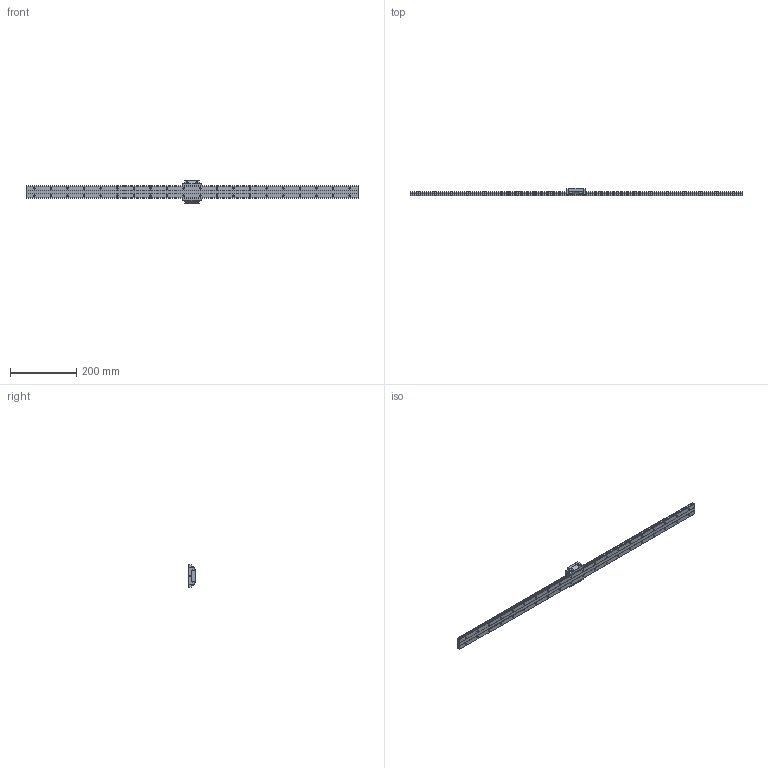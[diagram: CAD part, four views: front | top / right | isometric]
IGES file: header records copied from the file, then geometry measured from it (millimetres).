
Start section: Data from XPlus IGES,  Spatial Corp. Copyright (c) 1999-2004
Global section: file name: SHW21CA1UU1000250470.5000.igs; native system:  By Spatial Corp.; preprocessor: XPlus ACIS/IGES 3.0; author: Noname; organization: Noname; date: 20161110.134348; units: millimetre
Bounding box: 1000 x 21 x 68 mm (x, y, z)
Surface area: 119918.3 mm2 (no closed solid volume)
Topology: 0 solids, 0 shells, 397 faces, 2044 edges, 2044 vertices
Faces by surface type: revolution 242, extrusion 155
